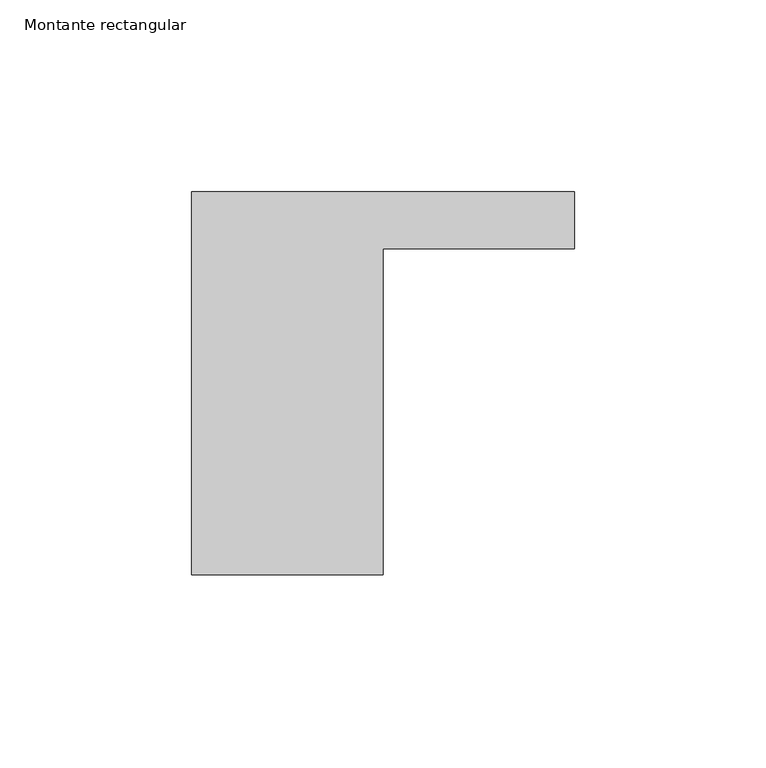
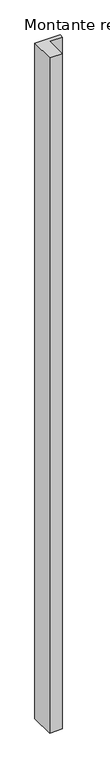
"""IFC4 building model written with IfcOpenShell, lengths in millimetres: member geometry, Montante rectangular : Montante rectangular (encuentro pilares)-iz 5 x 10 cm."""

from ifc_helpers import new_model, si_unit, frame, origin, place, context, project, spatial, polyline, outline, extrude, source, transform, mapped, element, save


def montante_rectangular_130be25c(model_context):
    return source(origin(), model_context, "Body", "SweptSolid", [
        extrude(outline(polyline([(0.0, 50.0), (0.0, 35.0), (-50.0, 35.0), (-50.0, -50.0), (-100.0, -50.0), (-100.0, 50.0), (0.0, 50.0)])), frame((0.0, 0.0, -2820.0), z_axis=(0.0, 0.0, 1.0), x_axis=(1.0, 0.0, 0.0)), (0.0, 0.0, 1.0), 2820.0),
    ])


if __name__ == "__main__":
    model = new_model("IFC4")
    model_context = context("Model", 3, world=origin())
    ifc_project = project(units=[si_unit("LENGTHUNIT", "METRE", prefix="MILLI")], contexts=[model_context])
    site = spatial("IfcSite", under=ifc_project)
    building = spatial("IfcBuilding", under=site)
    placement = place(None, origin())
    montante_rectangular_shape = montante_rectangular_130be25c(model_context)
    element("IfcMember", 1, ObjectType="Montante rectangular : Montante rectangular (encuentro pilares)-iz 5 x 10 cm", at=placement, inside=building, context=model_context, shape_type="MappedRepresentation", body=[
        mapped(montante_rectangular_shape, transform((0.0, 0.0, 0.0), x_axis=(1.0, 0.0, 0.0), y_axis=(0.0, 1.0, 0.0), z_axis=(0.0, 0.0, 1.0))),
    ])
    save(model, "model.ifc")
